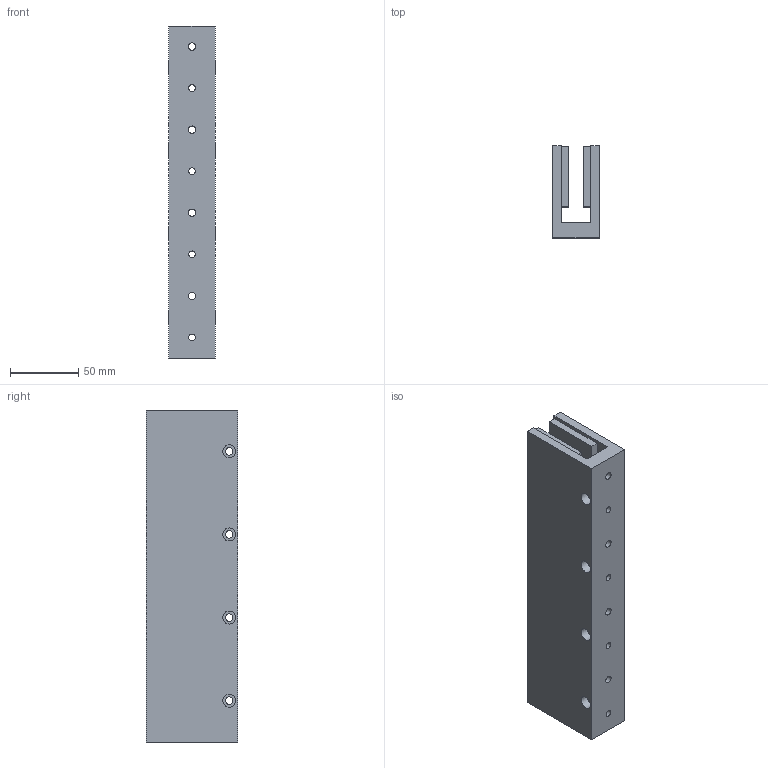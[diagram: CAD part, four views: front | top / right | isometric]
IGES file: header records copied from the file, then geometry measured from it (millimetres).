
Global section: file name: No Iges File Name specified; native system: Autodesk Inventor 2012; preprocessor: AutoDesk Inventor Iges Exporter R2012; author: je17857; date: 20120511.155302; units: inch
Bounding box: 34.29 x 67.31 x 243.59 mm (x, y, z)
Volume: 359150.7 mm3; surface area: 95523.8 mm2
Topology: 1 solids, 1 shells, 126 faces, 292 edges, 196 vertices
Faces by surface type: plane 102, revolution 24
